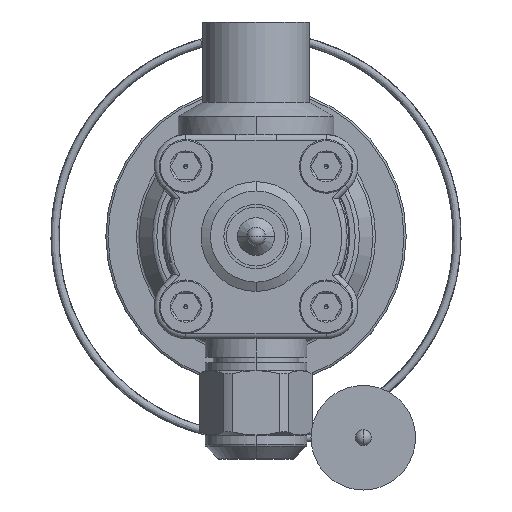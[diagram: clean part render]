
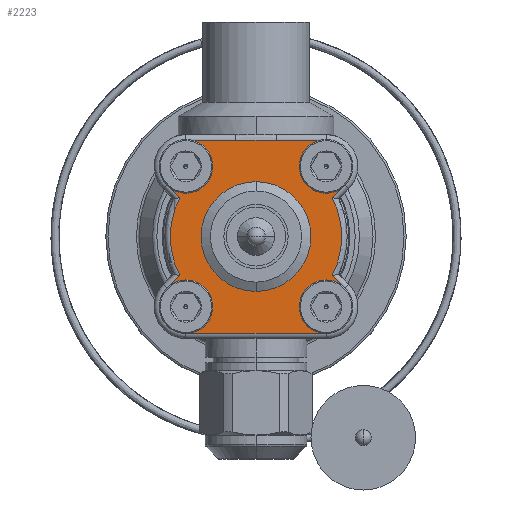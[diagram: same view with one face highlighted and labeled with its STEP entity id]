
A CAD part, front view. The second image highlights one B-rep face of the part: STEP entity #2223.
In plain terms, the highlighted planar face has unit normal (0, -1, 0).
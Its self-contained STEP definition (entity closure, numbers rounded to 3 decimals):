
#2223=ADVANCED_FACE('',(#3426,#3428,#3430,#3432,#3434,#3436),#3438,.F.);
#3426=FACE_BOUND('',#3427,.T.);
#3427=EDGE_LOOP('',(#17736,#17737));
#3428=FACE_BOUND('',#3429,.T.);
#3429=EDGE_LOOP('',(#17738,#17739));
#3430=FACE_BOUND('',#3431,.T.);
#3431=EDGE_LOOP('',(#17740,#17741));
#3432=FACE_BOUND('',#3433,.T.);
#3433=EDGE_LOOP('',(#17742,#17743));
#3434=FACE_BOUND('',#3435,.T.);
#3435=EDGE_LOOP('',(#17744,#17745));
#3436=FACE_OUTER_BOUND('',#3437,.T.);
#3437=EDGE_LOOP('',(#17746,#17747,#17748,#17749,#17750,#17751,#17752,#17753,#17754,
#17755,#17756,#17757,#17758,#17759));
#3438=PLANE('',#3439);
#3439=AXIS2_PLACEMENT_3D('',#3440,#3441,#3442);
#3440=CARTESIAN_POINT('',(0.,-15.,0.));
#3441=DIRECTION('',(0.,1.,0.));
#3442=DIRECTION('',(1.,0.,0.));
#17736=ORIENTED_EDGE('',*,*,#20536,.T.);
#17737=ORIENTED_EDGE('',*,*,#20493,.T.);
#17738=ORIENTED_EDGE('',*,*,#20537,.T.);
#17739=ORIENTED_EDGE('',*,*,#20496,.T.);
#17740=ORIENTED_EDGE('',*,*,#20538,.T.);
#17741=ORIENTED_EDGE('',*,*,#20499,.T.);
#17742=ORIENTED_EDGE('',*,*,#20539,.T.);
#17743=ORIENTED_EDGE('',*,*,#20502,.T.);
#17744=ORIENTED_EDGE('',*,*,#20540,.T.);
#17745=ORIENTED_EDGE('',*,*,#20541,.T.);
#17746=ORIENTED_EDGE('',*,*,#20507,.F.);
#17747=ORIENTED_EDGE('',*,*,#20542,.F.);
#17748=ORIENTED_EDGE('',*,*,#20534,.F.);
#17749=ORIENTED_EDGE('',*,*,#20543,.F.);
#17750=ORIENTED_EDGE('',*,*,#20529,.F.);
#17751=ORIENTED_EDGE('',*,*,#20527,.F.);
#17752=ORIENTED_EDGE('',*,*,#20525,.F.);
#17753=ORIENTED_EDGE('',*,*,#20523,.F.);
#17754=ORIENTED_EDGE('',*,*,#20521,.F.);
#17755=ORIENTED_EDGE('',*,*,#20519,.F.);
#17756=ORIENTED_EDGE('',*,*,#20517,.F.);
#17757=ORIENTED_EDGE('',*,*,#20515,.F.);
#17758=ORIENTED_EDGE('',*,*,#20513,.F.);
#17759=ORIENTED_EDGE('',*,*,#20511,.F.);
#20493=EDGE_CURVE('',#21975,#21977,#21979,.T.);
#20496=EDGE_CURVE('',#21980,#21982,#21984,.T.);
#20499=EDGE_CURVE('',#21985,#21987,#21989,.T.);
#20502=EDGE_CURVE('',#21990,#21992,#21994,.T.);
#20507=EDGE_CURVE('',#22000,#22002,#22003,.T.);
#20511=EDGE_CURVE('',#22002,#22008,#22009,.T.);
#20513=EDGE_CURVE('',#22008,#22011,#22012,.T.);
#20515=EDGE_CURVE('',#22011,#22014,#22015,.T.);
#20517=EDGE_CURVE('',#22014,#22017,#22018,.T.);
#20519=EDGE_CURVE('',#22017,#22020,#22021,.T.);
#20521=EDGE_CURVE('',#22020,#22023,#22024,.T.);
#20523=EDGE_CURVE('',#22023,#22026,#22027,.T.);
#20525=EDGE_CURVE('',#22026,#22029,#22030,.T.);
#20527=EDGE_CURVE('',#22029,#22032,#22033,.T.);
#20529=EDGE_CURVE('',#22032,#22035,#22036,.T.);
#20534=EDGE_CURVE('',#22040,#22042,#22043,.T.);
#20536=EDGE_CURVE('',#21977,#21975,#22045,.T.);
#20537=EDGE_CURVE('',#21982,#21980,#22046,.T.);
#20538=EDGE_CURVE('',#21987,#21985,#22047,.T.);
#20539=EDGE_CURVE('',#21992,#21990,#22048,.T.);
#20540=EDGE_CURVE('',#22049,#22050,#22051,.T.);
#20541=EDGE_CURVE('',#22050,#22049,#22052,.T.);
#20542=EDGE_CURVE('',#22042,#22000,#22053,.T.);
#20543=EDGE_CURVE('',#22035,#22040,#22054,.T.);
#21975=VERTEX_POINT('',#24735);
#21977=VERTEX_POINT('',#24739);
#21979=CIRCLE('',#24743,2.5);
#21980=VERTEX_POINT('',#24747);
#21982=VERTEX_POINT('',#24751);
#21984=CIRCLE('',#24755,2.5);
#21985=VERTEX_POINT('',#24759);
#21987=VERTEX_POINT('',#24763);
#21989=CIRCLE('',#24767,2.5);
#21990=VERTEX_POINT('',#24771);
#21992=VERTEX_POINT('',#24775);
#21994=CIRCLE('',#24779,2.5);
#22000=VERTEX_POINT('',#24795);
#22002=VERTEX_POINT('',#24800);
#22003=CIRCLE('',#24801,4.919);
#22008=VERTEX_POINT('',#24817);
#22009=LINE('',#24818,#24819);
#22011=VERTEX_POINT('',#24841);
#22012=CIRCLE('',#24842,15.323);
#22014=VERTEX_POINT('',#24866);
#22015=LINE('',#24867,#24868);
#22017=VERTEX_POINT('',#24874);
#22018=CIRCLE('',#24875,4.919);
#22020=VERTEX_POINT('',#24883);
#22021=LINE('',#24884,#24885);
#22023=VERTEX_POINT('',#24891);
#22024=CIRCLE('',#24892,4.919);
#22026=VERTEX_POINT('',#24900);
#22027=LINE('',#24901,#24902);
#22029=VERTEX_POINT('',#24924);
#22030=CIRCLE('',#24925,15.323);
#22032=VERTEX_POINT('',#24949);
#22033=LINE('',#24950,#24951);
#22035=VERTEX_POINT('',#24957);
#22036=CIRCLE('',#24958,4.919);
#22040=VERTEX_POINT('',#24973);
#22042=VERTEX_POINT('',#24986);
#22043=B_SPLINE_CURVE_WITH_KNOTS('',3,
(#24987,#24988,#24989,#24990,#24991,#24992,#24993,#24994,#24995,#24996,#24997,#24998,
#24999,#25000,#25001,#25002,#25003,#25004),
.UNSPECIFIED.,.F.,.F.,
(4,2,2,2,2,2,2,2,4),
(0.,0.131,0.262,0.393,0.524,0.655,
0.786,0.916,1.),
.UNSPECIFIED.);
#22045=CIRCLE('',#25017,2.5);
#22046=CIRCLE('',#25021,2.5);
#22047=CIRCLE('',#25025,2.5);
#22048=CIRCLE('',#25029,2.5);
#22049=VERTEX_POINT('',#25033);
#22050=VERTEX_POINT('',#25034);
#22051=CIRCLE('',#25035,10.232);
#22052=CIRCLE('',#25039,10.232);
#22053=LINE('',#25043,#25044);
#22054=LINE('',#25046,#25047);
#24735=CARTESIAN_POINT('',(10.581,-15.,-13.081));
#24739=CARTESIAN_POINT('',(15.581,-15.,-13.081));
#24743=AXIS2_PLACEMENT_3D('',#24744,#24745,#24746);
#24744=CARTESIAN_POINT('',(13.081,-15.,-13.081));
#24745=DIRECTION('',(0.,1.,0.));
#24746=DIRECTION('',(-1.,0.,0.));
#24747=CARTESIAN_POINT('',(10.581,-15.,13.081));
#24751=CARTESIAN_POINT('',(15.581,-15.,13.081));
#24755=AXIS2_PLACEMENT_3D('',#24756,#24757,#24758);
#24756=CARTESIAN_POINT('',(13.081,-15.,13.081));
#24757=DIRECTION('',(0.,1.,0.));
#24758=DIRECTION('',(-1.,0.,0.));
#24759=CARTESIAN_POINT('',(-15.581,-15.,-13.081));
#24763=CARTESIAN_POINT('',(-10.581,-15.,-13.081));
#24767=AXIS2_PLACEMENT_3D('',#24768,#24769,#24770);
#24768=CARTESIAN_POINT('',(-13.081,-15.,-13.081));
#24769=DIRECTION('',(0.,1.,0.));
#24770=DIRECTION('',(-1.,0.,0.));
#24771=CARTESIAN_POINT('',(-15.581,-15.,13.081));
#24775=CARTESIAN_POINT('',(-10.581,-15.,13.081));
#24779=AXIS2_PLACEMENT_3D('',#24780,#24781,#24782);
#24780=CARTESIAN_POINT('',(-13.081,-15.,13.081));
#24781=DIRECTION('',(0.,1.,0.));
#24782=DIRECTION('',(-1.,0.,0.));
#24795=CARTESIAN_POINT('',(13.081,-15.,18.));
#24800=CARTESIAN_POINT('',(16.559,-15.,9.604));
#24801=AXIS2_PLACEMENT_3D('',#24802,#24803,#24804);
#24802=CARTESIAN_POINT('',(13.081,-15.,13.081));
#24803=DIRECTION('',(0.,1.,0.));
#24804=DIRECTION('',(0.,0.,1.));
#24817=CARTESIAN_POINT('',(14.187,-15.,7.231));
#24818=CARTESIAN_POINT('',(16.559,-15.,9.604));
#24819=VECTOR('',#24820,1.);
#24820=DIRECTION('',(-0.707,0.,-0.707));
#24841=CARTESIAN_POINT('',(14.187,-15.,-7.231));
#24842=AXIS2_PLACEMENT_3D('',#24843,#24844,#24845);
#24843=CARTESIAN_POINT('',(0.677,-15.,0.));
#24844=DIRECTION('',(0.,1.,0.));
#24845=DIRECTION('',(0.882,0.,0.472));
#24866=CARTESIAN_POINT('',(16.559,-15.,-9.604));
#24867=CARTESIAN_POINT('',(14.187,-15.,-7.231));
#24868=VECTOR('',#24869,1.);
#24869=DIRECTION('',(0.707,0.,-0.707));
#24874=CARTESIAN_POINT('',(13.081,-15.,-18.));
#24875=AXIS2_PLACEMENT_3D('',#24876,#24877,#24878);
#24876=CARTESIAN_POINT('',(13.081,-15.,-13.081));
#24877=DIRECTION('',(0.,1.,0.));
#24878=DIRECTION('',(0.707,0.,0.707));
#24883=CARTESIAN_POINT('',(-13.081,-15.,-18.));
#24884=CARTESIAN_POINT('',(13.081,-15.,-18.));
#24885=VECTOR('',#24886,1.);
#24886=DIRECTION('',(-1.,0.,0.));
#24891=CARTESIAN_POINT('',(-16.559,-15.,-9.604));
#24892=AXIS2_PLACEMENT_3D('',#24893,#24894,#24895);
#24893=CARTESIAN_POINT('',(-13.081,-15.,-13.081));
#24894=DIRECTION('',(0.,1.,0.));
#24895=DIRECTION('',(0.,0.,-1.));
#24900=CARTESIAN_POINT('',(-14.187,-15.,-7.231));
#24901=CARTESIAN_POINT('',(-16.559,-15.,-9.604));
#24902=VECTOR('',#24903,1.);
#24903=DIRECTION('',(0.707,0.,0.707));
#24924=CARTESIAN_POINT('',(-14.187,-15.,7.231));
#24925=AXIS2_PLACEMENT_3D('',#24926,#24927,#24928);
#24926=CARTESIAN_POINT('',(-0.677,-15.,0.));
#24927=DIRECTION('',(0.,1.,0.));
#24928=DIRECTION('',(-0.882,0.,-0.472));
#24949=CARTESIAN_POINT('',(-16.559,-15.,9.604));
#24950=CARTESIAN_POINT('',(-14.187,-15.,7.231));
#24951=VECTOR('',#24952,1.);
#24952=DIRECTION('',(-0.707,0.,0.707));
#24957=CARTESIAN_POINT('',(-13.081,-15.,18.));
#24958=AXIS2_PLACEMENT_3D('',#24959,#24960,#24961);
#24959=CARTESIAN_POINT('',(-13.081,-15.,13.081));
#24960=DIRECTION('',(0.,1.,0.));
#24961=DIRECTION('',(-0.707,0.,-0.707));
#24973=CARTESIAN_POINT('',(-3.775,-15.,18.));
#24986=CARTESIAN_POINT('',(3.775,-15.,18.));
#24987=CARTESIAN_POINT('',(-3.775,-15.,18.));
#24988=CARTESIAN_POINT('',(-3.451,-15.,18.007));
#24989=CARTESIAN_POINT('',(-3.128,-15.,18.013));
#24990=CARTESIAN_POINT('',(-2.474,-15.,18.039));
#24991=CARTESIAN_POINT('',(-2.145,-15.,18.062));
#24992=CARTESIAN_POINT('',(-1.484,-15.,18.093));
#24993=CARTESIAN_POINT('',(-1.151,-15.,18.112));
#24994=CARTESIAN_POINT('',(-0.486,-15.,18.13));
#24995=CARTESIAN_POINT('',(-0.152,-15.,18.136));
#24996=CARTESIAN_POINT('',(0.514,-15.,18.131));
#24997=CARTESIAN_POINT('',(0.848,-15.,18.12));
#24998=CARTESIAN_POINT('',(1.512,-15.,18.095));
#24999=CARTESIAN_POINT('',(1.844,-15.,18.074));
#25000=CARTESIAN_POINT('',(2.502,-15.,18.042));
#25001=CARTESIAN_POINT('',(2.83,-15.,18.021));
#25002=CARTESIAN_POINT('',(3.363,-15.,18.005));
#25003=CARTESIAN_POINT('',(3.569,-15.,18.003));
#25004=CARTESIAN_POINT('',(3.775,-15.,18.));
#25017=AXIS2_PLACEMENT_3D('',#25018,#25019,#25020);
#25018=CARTESIAN_POINT('',(13.081,-15.,-13.081));
#25019=DIRECTION('',(0.,1.,0.));
#25020=DIRECTION('',(1.,0.,0.));
#25021=AXIS2_PLACEMENT_3D('',#25022,#25023,#25024);
#25022=CARTESIAN_POINT('',(13.081,-15.,13.081));
#25023=DIRECTION('',(0.,1.,0.));
#25024=DIRECTION('',(1.,0.,0.));
#25025=AXIS2_PLACEMENT_3D('',#25026,#25027,#25028);
#25026=CARTESIAN_POINT('',(-13.081,-15.,-13.081));
#25027=DIRECTION('',(0.,1.,0.));
#25028=DIRECTION('',(1.,0.,0.));
#25029=AXIS2_PLACEMENT_3D('',#25030,#25031,#25032);
#25030=CARTESIAN_POINT('',(-13.081,-15.,13.081));
#25031=DIRECTION('',(0.,1.,0.));
#25032=DIRECTION('',(1.,0.,0.));
#25033=CARTESIAN_POINT('',(0.,-15.,-10.232));
#25034=CARTESIAN_POINT('',(0.,-15.,10.232));
#25035=AXIS2_PLACEMENT_3D('',#25036,#25037,#25038);
#25036=CARTESIAN_POINT('',(0.,-15.,0.));
#25037=DIRECTION('',(0.,1.,0.));
#25038=DIRECTION('',(0.,0.,-1.));
#25039=AXIS2_PLACEMENT_3D('',#25040,#25041,#25042);
#25040=CARTESIAN_POINT('',(0.,-15.,0.));
#25041=DIRECTION('',(0.,1.,0.));
#25042=DIRECTION('',(0.,0.,1.));
#25043=CARTESIAN_POINT('',(3.775,-15.,18.));
#25044=VECTOR('',#25045,1.);
#25045=DIRECTION('',(1.,0.,0.));
#25046=CARTESIAN_POINT('',(-13.081,-15.,18.));
#25047=VECTOR('',#25048,1.);
#25048=DIRECTION('',(1.,0.,0.));
